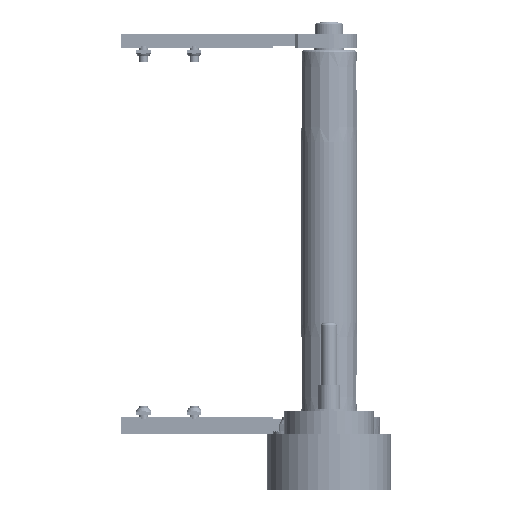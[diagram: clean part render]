
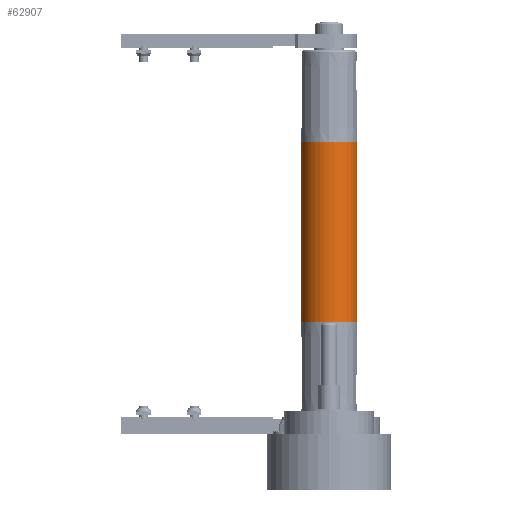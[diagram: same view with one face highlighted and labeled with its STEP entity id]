
A CAD part, front view. The second image highlights one B-rep face of the part: STEP entity #62907.
In plain terms, the highlighted cylindrical face has radius 25 mm (diameter 50 mm), a partial arc.
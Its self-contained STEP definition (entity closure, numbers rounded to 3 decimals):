
#2833 = CARTESIAN_POINT ( 'NONE',  ( -80., 0., 25. ) ) ;
#3941 = EDGE_CURVE ( 'NONE', #11197, #9821, #41021, .T. ) ;
#5940 = VERTEX_POINT ( 'NONE', #83011 ) ;
#7286 = CARTESIAN_POINT ( 'NONE',  ( 160., 0., -25. ) ) ;
#9014 = LINE ( 'NONE', #82706, #81810 ) ;
#9621 = CYLINDRICAL_SURFACE ( 'NONE', #28744, 25. ) ;
#9821 = VERTEX_POINT ( 'NONE', #25310 ) ;
#11197 = VERTEX_POINT ( 'NONE', #43933 ) ;
#12827 = DIRECTION ( 'NONE',  ( 0., -1., 0. ) ) ;
#15662 = DIRECTION ( 'NONE',  ( 0., -1., 0. ) ) ;
#15747 = LINE ( 'NONE', #7286, #79496 ) ;
#16582 = ORIENTED_EDGE ( 'NONE', *, *, #42932, .F. ) ;
#17860 = CIRCLE ( 'NONE', #29473, 25. ) ;
#18780 = EDGE_CURVE ( 'NONE', #5940, #29014, #17860, .T. ) ;
#20794 = CIRCLE ( 'NONE', #79186, 25. ) ;
#20905 = ORIENTED_EDGE ( 'NONE', *, *, #18780, .T. ) ;
#22339 = DIRECTION ( 'NONE',  ( -1., 0., 0. ) ) ;
#22585 = VERTEX_POINT ( 'NONE', #26563 ) ;
#23079 = ORIENTED_EDGE ( 'NONE', *, *, #3941, .F. ) ;
#25310 = CARTESIAN_POINT ( 'NONE',  ( -80., -25., 0. ) ) ;
#26563 = CARTESIAN_POINT ( 'NONE',  ( 80., 0., 25. ) ) ;
#28744 = AXIS2_PLACEMENT_3D ( 'NONE', #83741, #71514, #52032 ) ;
#29014 = VERTEX_POINT ( 'NONE', #72242 ) ;
#29473 = AXIS2_PLACEMENT_3D ( 'NONE', #80856, #22339, #41798 ) ;
#32963 = DIRECTION ( 'NONE',  ( -1., 0., 0. ) ) ;
#33215 = AXIS2_PLACEMENT_3D ( 'NONE', #63631, #57720, #12827 ) ;
#33524 = CIRCLE ( 'NONE', #33215, 25. ) ;
#35535 = AXIS2_PLACEMENT_3D ( 'NONE', #41037, #40207, #15662 ) ;
#37074 = EDGE_CURVE ( 'NONE', #5940, #11197, #15747, .T. ) ;
#40207 = DIRECTION ( 'NONE',  ( -1., 0., 0. ) ) ;
#41021 = CIRCLE ( 'NONE', #35535, 25. ) ;
#41037 = CARTESIAN_POINT ( 'NONE',  ( -80., 0., 0. ) ) ;
#41798 = DIRECTION ( 'NONE',  ( 0., -1., 0. ) ) ;
#42783 = CARTESIAN_POINT ( 'NONE',  ( -80., 0., 0. ) ) ;
#42932 = EDGE_CURVE ( 'NONE', #9821, #64173, #20794, .T. ) ;
#43933 = CARTESIAN_POINT ( 'NONE',  ( -80., 0., -25. ) ) ;
#47745 = EDGE_CURVE ( 'NONE', #22585, #64173, #9014, .T. ) ;
#52032 = DIRECTION ( 'NONE',  ( 0., 0., 1. ) ) ;
#57720 = DIRECTION ( 'NONE',  ( -1., 0., 0. ) ) ;
#61749 = DIRECTION ( 'NONE',  ( 0., -1., 0. ) ) ;
#62907 = ADVANCED_FACE ( 'NONE', ( #76297 ), #9621, .T. ) ;
#63631 = CARTESIAN_POINT ( 'NONE',  ( 80., 0., 0. ) ) ;
#64173 = VERTEX_POINT ( 'NONE', #2833 ) ;
#65539 = EDGE_LOOP ( 'NONE', ( #75883, #20905, #72645, #76693, #16582, #23079 ) ) ;
#71328 = EDGE_CURVE ( 'NONE', #29014, #22585, #33524, .T. ) ;
#71514 = DIRECTION ( 'NONE',  ( -1., 0., 0. ) ) ;
#72242 = CARTESIAN_POINT ( 'NONE',  ( 80., -25., 0. ) ) ;
#72645 = ORIENTED_EDGE ( 'NONE', *, *, #71328, .T. ) ;
#75883 = ORIENTED_EDGE ( 'NONE', *, *, #37074, .F. ) ;
#76297 = FACE_OUTER_BOUND ( 'NONE', #65539, .T. ) ;
#76693 = ORIENTED_EDGE ( 'NONE', *, *, #47745, .T. ) ;
#76727 = DIRECTION ( 'NONE',  ( -1., 0., 0. ) ) ;
#79186 = AXIS2_PLACEMENT_3D ( 'NONE', #42783, #80476, #61749 ) ;
#79496 = VECTOR ( 'NONE', #32963, 1000. ) ;
#80476 = DIRECTION ( 'NONE',  ( -1., 0., 0. ) ) ;
#80856 = CARTESIAN_POINT ( 'NONE',  ( 80., 0., 0. ) ) ;
#81810 = VECTOR ( 'NONE', #76727, 1000. ) ;
#82706 = CARTESIAN_POINT ( 'NONE',  ( 160., 0., 25. ) ) ;
#83011 = CARTESIAN_POINT ( 'NONE',  ( 80., 0., -25. ) ) ;
#83741 = CARTESIAN_POINT ( 'NONE',  ( 160., 0., 0. ) ) ;
